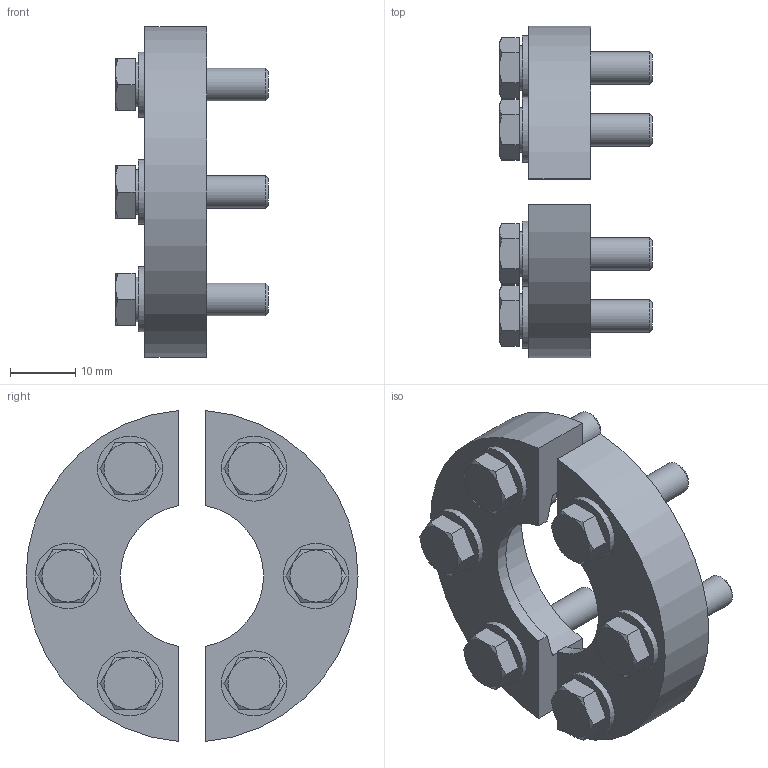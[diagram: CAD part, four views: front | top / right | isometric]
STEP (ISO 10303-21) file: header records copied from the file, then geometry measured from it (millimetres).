
FILE_DESCRIPTION((''),'2;1');
FILE_NAME('W:\M211-541.stp','2013-12-05T14:34:19',('KAA'),(''),'Autodesk Inventor 2012','Autodesk Inventor 2012','');
FILE_SCHEMA(('AUTOMOTIVE_DESIGN { 1 0 10303 214 1 1 1 1 }'));
Length unit declared in the file: millimetre
Products named in the file (1): M211-541
Bounding box: 23.5 x 51 x 50.84 mm (x, y, z)
Volume: 15032.4 mm3; surface area: 9520.5 mm2
Topology: 2 solids, 2 shells, 150 faces, 312 edges, 196 vertices
Faces by surface type: plane 74, cone 44, cylinder 30, torus 2
Full cylindrical faces by diameter (mm): 5 x6, 5.3 x6, 6.88 x6, 10 x6
Entity records: 3888 total; most frequent: CARTESIAN_POINT 805, DIRECTION 602, ORIENTED_EDGE 552, EDGE_CURVE 276, AXIS2_PLACEMENT_3D 255, EDGE_LOOP 210, VERTEX_POINT 190, FACE_OUTER_BOUND 150
